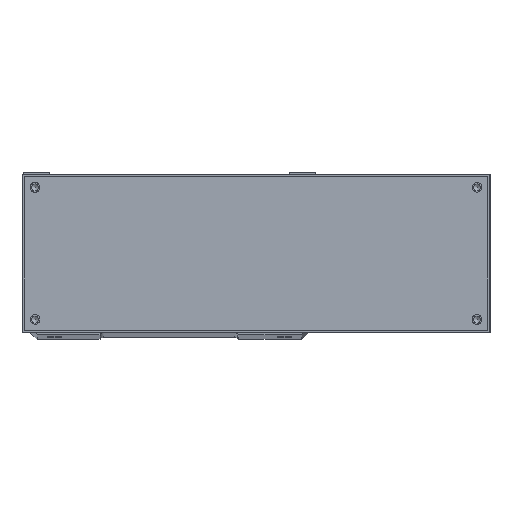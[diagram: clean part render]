
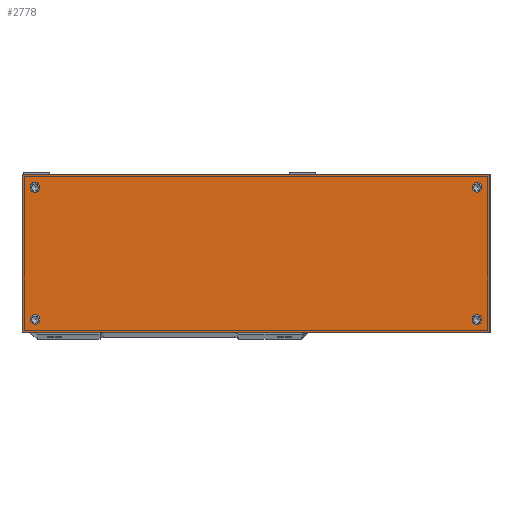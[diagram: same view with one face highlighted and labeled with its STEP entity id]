
A CAD part, top view. The second image highlights one B-rep face of the part: STEP entity #2778.
In plain terms, the highlighted planar face has unit normal (0, 0, 1).
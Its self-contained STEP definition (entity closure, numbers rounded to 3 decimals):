
#295=FACE_BOUND('',#4727,.T.);
#296=FACE_BOUND('',#4728,.T.);
#297=FACE_BOUND('',#4729,.T.);
#298=FACE_BOUND('',#4730,.T.);
#299=FACE_BOUND('',#4731,.T.);
#1405=CIRCLE('',#16789,2.25);
#1406=CIRCLE('',#16790,2.25);
#1407=CIRCLE('',#16791,2.25);
#1408=CIRCLE('',#16792,2.25);
#2778=ADVANCED_FACE('8',(#295,#296,#297,#298,#299),#3554,.F.);
#3554=PLANE('',#16793);
#4727=EDGE_LOOP('',(#7186));
#4728=EDGE_LOOP('',(#7187));
#4729=EDGE_LOOP('',(#7188));
#4730=EDGE_LOOP('',(#7189));
#4731=EDGE_LOOP('',(#7190,#7191,#7192,#7193));
#7186=ORIENTED_EDGE('',*,*,#12830,.F.);
#7187=ORIENTED_EDGE('',*,*,#12831,.F.);
#7188=ORIENTED_EDGE('',*,*,#12832,.F.);
#7189=ORIENTED_EDGE('',*,*,#12833,.F.);
#7190=ORIENTED_EDGE('',*,*,#12834,.F.);
#7191=ORIENTED_EDGE('',*,*,#12835,.F.);
#7192=ORIENTED_EDGE('',*,*,#12738,.F.);
#7193=ORIENTED_EDGE('',*,*,#12761,.F.);
#10917=VERTEX_POINT('',#25658);
#10918=VERTEX_POINT('',#25660);
#10929=VERTEX_POINT('',#25696);
#10960=VERTEX_POINT('',#26206);
#10961=VERTEX_POINT('',#26208);
#10962=VERTEX_POINT('',#26210);
#10963=VERTEX_POINT('',#26212);
#10964=VERTEX_POINT('',#26214);
#12738=EDGE_CURVE('',#10917,#10918,#14501,.T.);
#12761=EDGE_CURVE('',#10929,#10917,#14522,.T.);
#12830=EDGE_CURVE('',#10960,#10960,#1405,.T.);
#12831=EDGE_CURVE('',#10961,#10961,#1406,.T.);
#12832=EDGE_CURVE('',#10962,#10962,#1407,.T.);
#12833=EDGE_CURVE('',#10963,#10963,#1408,.T.);
#12834=EDGE_CURVE('',#10964,#10929,#14548,.T.);
#12835=EDGE_CURVE('',#10918,#10964,#14549,.T.);
#14501=LINE('',#25659,#15606);
#14522=LINE('',#25697,#15627);
#14548=LINE('',#26213,#15653);
#14549=LINE('',#26215,#15654);
#15606=VECTOR('',#19596,1.);
#15627=VECTOR('',#19627,1.);
#15653=VECTOR('',#19765,1.);
#15654=VECTOR('',#19766,1.);
#16789=AXIS2_PLACEMENT_3D('',#26205,#19757,#19758);
#16790=AXIS2_PLACEMENT_3D('',#26207,#19759,#19760);
#16791=AXIS2_PLACEMENT_3D('',#26209,#19761,#19762);
#16792=AXIS2_PLACEMENT_3D('',#26211,#19763,#19764);
#16793=AXIS2_PLACEMENT_3D('',#26216,#19767,#19768);
#19596=DIRECTION('',(0.,1.,0.));
#19627=DIRECTION('',(-1.,0.,0.));
#19757=DIRECTION('',(0.,0.,1.));
#19758=DIRECTION('',(-1.,0.,0.));
#19759=DIRECTION('',(0.,0.,1.));
#19760=DIRECTION('',(1.,0.,0.));
#19761=DIRECTION('',(0.,0.,1.));
#19762=DIRECTION('',(-1.,0.,0.));
#19763=DIRECTION('',(0.,0.,1.));
#19764=DIRECTION('',(1.,0.,0.));
#19765=DIRECTION('',(0.,-1.,0.));
#19766=DIRECTION('',(1.,0.,0.));
#19767=DIRECTION('',(0.,0.,-1.));
#19768=DIRECTION('',(-1.,0.,0.));
#25658=CARTESIAN_POINT('',(-68.,0.,193.));
#25659=CARTESIAN_POINT('',(-68.,73.,193.));
#25660=CARTESIAN_POINT('',(-68.,73.,193.));
#25696=CARTESIAN_POINT('',(148.,0.,193.));
#25697=CARTESIAN_POINT('',(148.,0.,193.));
#26205=CARTESIAN_POINT('',(-62.,6.,193.));
#26206=CARTESIAN_POINT('',(-64.25,6.,193.));
#26207=CARTESIAN_POINT('',(142.,6.,193.));
#26208=CARTESIAN_POINT('',(144.25,6.,193.));
#26209=CARTESIAN_POINT('',(142.,67.,193.));
#26210=CARTESIAN_POINT('',(139.75,67.,193.));
#26211=CARTESIAN_POINT('',(-62.,67.,193.));
#26212=CARTESIAN_POINT('',(-59.75,67.,193.));
#26213=CARTESIAN_POINT('',(148.,73.,193.));
#26214=CARTESIAN_POINT('',(148.,73.,193.));
#26215=CARTESIAN_POINT('',(148.,73.,193.));
#26216=CARTESIAN_POINT('',(40.,36.5,193.));
